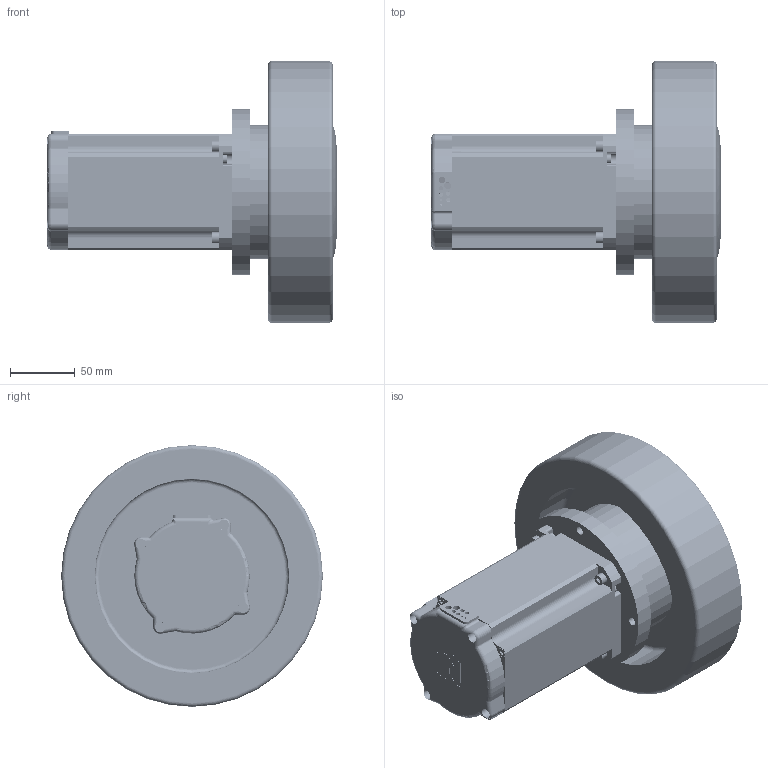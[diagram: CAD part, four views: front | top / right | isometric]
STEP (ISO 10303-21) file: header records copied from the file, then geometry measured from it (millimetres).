
FILE_DESCRIPTION (( 'STEP AP214' ), '1' );
FILE_NAME ('iMR-500_1L085B026NXXXD - GV04.STEP', '2024-10-30T10:23:39', ( '' ), ( '' ), 'SwSTEP 2.0', 'SolidWorks 2024', '' );
FILE_SCHEMA (( 'AUTOMOTIVE_DESIGN' ));
Length unit declared in the file: millimetre
Products named in the file (17): M5 x 18 Torx Cap Head Screw.stp; M4 x10 Low Torx Cap Head Screw.stp; 10000073 90_HOUSING_10000751 - IMR500G1 1U Braked Housing; 6FAG 61813-2RSR_bearing; 10000xxx 090 PROTO ( Squre top ORING) IMR-500 Gen01_brake_EE; 202_Wheel_hub_60 mm; Ring_ND090-10-P2-F0329-XXXX; 10000230 - ND090-10-P2-F0329-XXXX_ND090-10-P2-F0329-5000; 10000xxx IMR 500 G1 EE End cap gland PROTO (O-ring)_Flat end; 10000233 GO90 - Wheel 202X50_No_bearing; Hub_cap; 202X50_Solid_tire_50 mm; M4 x 12 Low Torx Cap Head Screw.stp; Planets_ND090-10-P2-F0329-XXXX; 10000568 090 REF iMR-500 Gen01_brake_EE (O-ring seal); 10000215 090 FEF Motion Gearbox; iMR-500_1L085B026NXXXD - GV04
Assembly tree (30 placements, depth 3):
  iMR-500_1L085B026NXXXD - GV04
    10000073 90_HOUSING_10000751 - IMR500G1 1U Braked Housing
    10000215 090 FEF Motion Gearbox
    M4 x 12 Low Torx Cap Head Screw.stp  x8
    10000230 - ND090-10-P2-F0329-XXXX_ND090-10-P2-F0329-5000
      Ring_ND090-10-P2-F0329-XXXX
      Planets_ND090-10-P2-F0329-XXXX
      6FAG 61813-2RSR_bearing  x2
    M5 x 18 Torx Cap Head Screw.stp  x4
    10000233 GO90 - Wheel 202X50_No_bearing
      202_Wheel_hub_60 mm
      202X50_Solid_tire_50 mm
    Hub_cap
    M4 x10 Low Torx Cap Head Screw.stp  x4
    10000xxx IMR 500 G1 EE End cap gland PROTO (O-ring)_Flat end
    10000568 090 REF iMR-500 Gen01_brake_EE (O-ring seal)
    10000xxx 090 PROTO ( Squre top ORING) IMR-500 Gen01_brake_EE
Bounding box: 223.25 x 202 x 202 mm (x, y, z)
Volume: 1774126.5 mm3; surface area: 459023.1 mm2
Topology: 28 solids, 28 shells, 2412 faces, 6553 edges, 4247 vertices
Faces by surface type: cylinder 1873, plane 276, cone 144, torus 77, bspline 42
Entity records: 44295 total; most frequent: CARTESIAN_POINT 17420, DIRECTION 5476, ORIENTED_EDGE 5412, EDGE_CURVE 2706, AXIS2_PLACEMENT_3D 2161, VERTEX_POINT 1731, EDGE_LOOP 1275, VECTOR 1154
